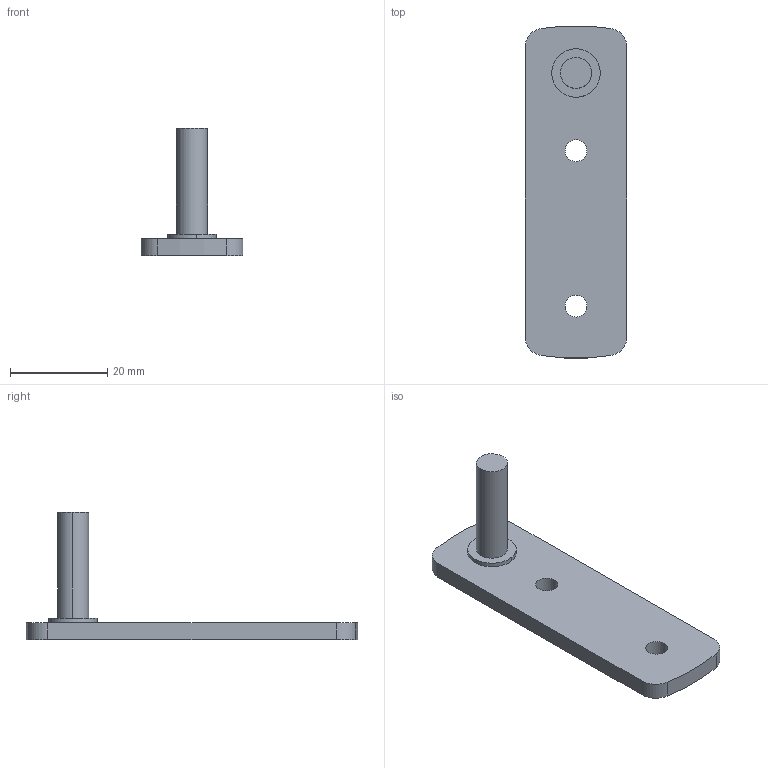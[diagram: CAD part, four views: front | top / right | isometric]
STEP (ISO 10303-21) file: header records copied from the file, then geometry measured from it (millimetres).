
FILE_DESCRIPTION (( 'STEP AP214' ), '1' );
FILE_NAME ('SE00TQ.STEP', '2021-04-10T01:59:07', ( 'Windows 蚚誧' ), ( '' ), 'SwSTEP 2.0', 'SolidWorks 2018', '' );
FILE_SCHEMA (( 'AUTOMOTIVE_DESIGN' ));
Length unit declared in the file: millimetre
Products named in the file (1): SE00TQ
Bounding box: 21 x 68.37 x 26.2 mm (x, y, z)
Volume: 5603.9 mm3; surface area: 3922.2 mm2
Topology: 1 solids, 1 shells, 20 faces, 48 edges, 32 vertices
Faces by surface type: cylinder 14, plane 6
Entity records: 818 total; most frequent: DIRECTION 118, CARTESIAN_POINT 101, ORIENTED_EDGE 96, AXIS2_PLACEMENT_3D 49, EDGE_CURVE 48, VERTEX_POINT 32, CIRCLE 28, EDGE_LOOP 26
